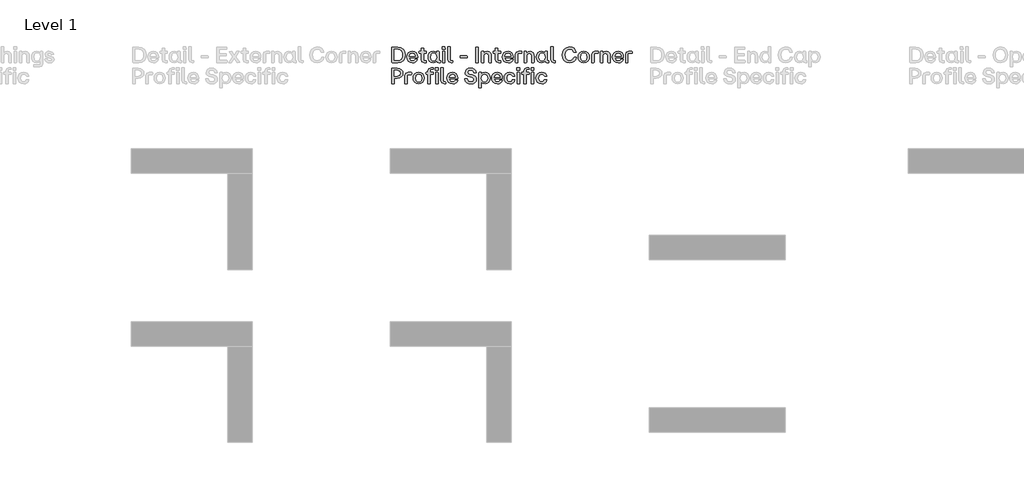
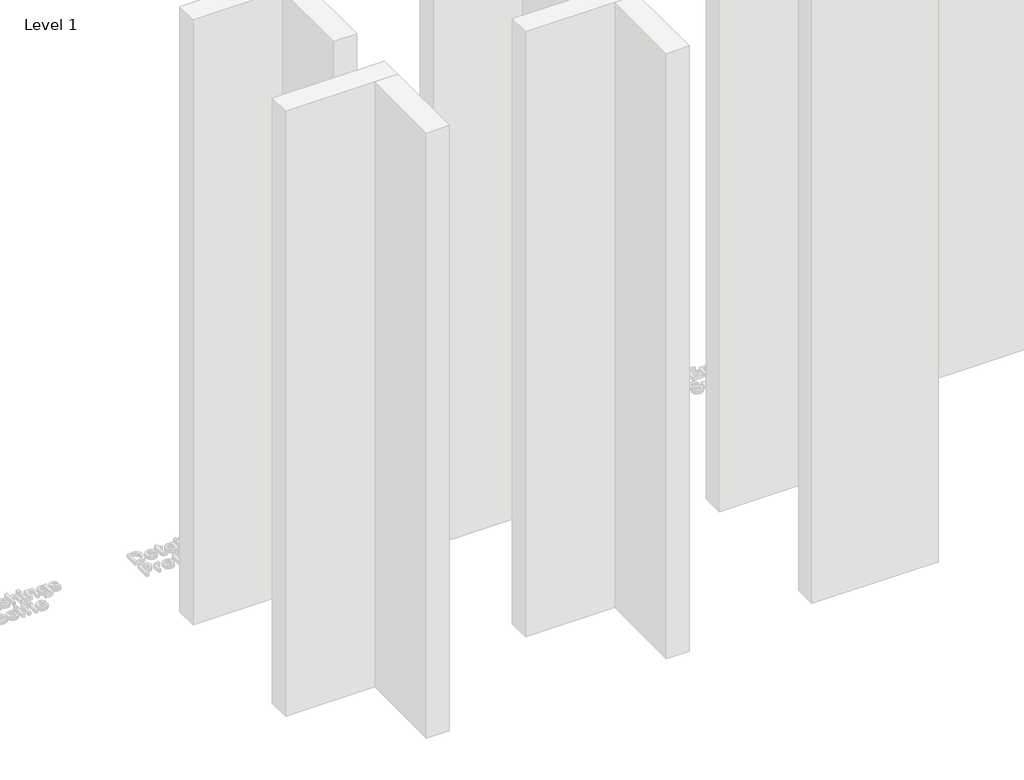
# One storey, part 58 of 64: 1 proxy.
"""IFC4 building model written with IfcOpenShell, lengths in millimetres."""

from ifc_helpers import new_model, si_unit, origin, origin_with_axes, place, context, project, spatial, polyline, outline, extrude, element, save

model = new_model("IFC4")

# Units and contexts
model_context = context("Model", 3, world=origin())
ifc_project = project(units=[si_unit("LENGTHUNIT", "METRE", prefix="MILLI")], contexts=[model_context])

# Site, building, storey
site = spatial("IfcSite", under=ifc_project)
building = spatial("IfcBuilding", under=site)
storey = spatial("IfcBuildingStorey", under=building, Name="Level 1", Elevation=0.0)

# Proxy
placement = place(None, origin())
element("IfcBuildingElementProxy", 1, Name="90mm", ObjectType="90mm", at=placement, inside=storey, context=model_context, shape_type="SweptSolid", body=[
    extrude(outline(polyline([(10610.2926176, 6000.0), (10608.9872124, 6001.2551973), (10608.9872124, 6088.6922388), (10642.5511873, 6089.997644), (10660.5475781, 6086.9945845), (10674.1193986, 6077.9854062), (10682.63905, 6063.6416394), (10685.4789338, 6044.6348148), (10682.648464, 6025.7974418), (10674.1570545, 6011.7109905), (10660.594648, 6002.9277476), (10642.5511873, 6000.0), (10610.2926176, 6000.0)]), holes=[polyline([(10623.7985402, 6012.6272845), (10641.6725492, 6012.6272845), (10653.8950326, 6014.688946), (10662.9481429, 6020.8739305), (10668.5494607, 6030.9374746), (10670.4165666, 6044.6348148), (10668.5431847, 6058.4890546), (10662.923039, 6068.8224661), (10653.8636527, 6075.2522141), (10641.6725492, 6077.3954634), (10623.7985402, 6077.3954634), (10623.7985402, 6012.6272845)])]), origin_with_axes(), (0.0, 0.0, 1.0), 20.0),
    extrude(outline(polyline([(10727.628458, 5999.2468816), (10714.0409476, 6001.5156507), (10703.5035666, 6008.3219579), (10696.7443293, 6018.9377888), (10694.4912502, 6032.6351289), (10696.7349153, 6046.4987827), (10703.4659107, 6057.2118914), (10713.9938777, 6064.0652685), (10727.628458, 6066.3497275), (10740.1584647, 6064.0966484), (10749.7324819, 6057.3374111), (10755.8044987, 6046.6870623), (10757.8285043, 6032.7606486), (10757.8285043, 6029.3214081), (10756.573307, 6027.990899), (10709.1268503, 6027.990899), (10714.6497183, 6015.3134066), (10727.628458, 6010.7946965), (10738.0465953, 6013.0917075), (10743.4439436, 6019.5308695), (10744.8246606, 6020.5852352), (10756.1967478, 6020.5852352), (10754.1633282, 6011.2685335), (10747.8120301, 6004.8074055), (10738.8248176, 6000.6370126), (10727.628458, 5999.2468816)]), holes=[polyline([(10709.2523701, 6038.4090363), (10743.8205028, 6038.4090363), (10739.0633051, 6050.3710663), (10727.628458, 6054.7266008), (10714.8631018, 6050.5844498), (10709.2523701, 6038.4090363)])]), origin_with_axes(), (0.0, 0.0, 1.0), 20.0),
    extrude(outline(polyline([(10796.6140998, 6000.0), (10782.731618, 6004.7697496), (10777.9618684, 6018.6522314), (10777.9618684, 6054.2245219), (10766.7906127, 6054.2245219), (10765.4852076, 6064.2661), (10766.7906127, 6065.5212973), (10777.9618684, 6065.5212973), (10777.9618684, 6083.54593), (10779.2170657, 6084.8513352), (10790.9657121, 6084.8513352), (10792.2209094, 6083.54593), (10792.2209094, 6065.5212973), (10808.0363949, 6065.5212973), (10809.3418001, 6064.2661), (10809.3418001, 6055.555031), (10792.2209094, 6054.2245219), (10792.2209094, 6011.2967754), (10808.0363949, 6011.2967754), (10809.3418001, 6010.0415781), (10809.3418001, 6001.2551973), (10808.0363949, 6000.0), (10796.6140998, 6000.0)])), origin_with_axes(), (0.0, 0.0, 1.0), 20.0),
    extrude(outline(polyline([(10847.2738615, 5999.2468816), (10835.3243835, 6001.5156507), (10826.0861316, 6008.3219579), (10820.1741525, 6018.9377888), (10818.2034928, 6032.6351289), (10820.1741525, 6046.4674028), (10826.0861316, 6057.1867875), (10835.3243835, 6064.0589925), (10847.2738615, 6066.3497275), (10859.1856835, 6063.4627738), (10868.160344, 6055.555031), (10868.7377347, 6064.2661), (10869.992932, 6065.5212973), (10881.6662665, 6065.5212973), (10882.9716717, 6064.2661), (10882.9716717, 6011.2967754), (10890.0760882, 6011.2967754), (10891.3312855, 6010.0415781), (10891.3312855, 6001.2551973), (10890.0760882, 6000.0), (10880.536589, 6000.0), (10872.1581473, 6002.3534949), (10869.3653333, 6009.4139795), (10859.7254183, 6002.1338354), (10847.2738615, 5999.2468816)]), holes=[polyline([(10832.7135732, 6032.6351289), (10837.6716024, 6016.6313638), (10843.5365116, 6012.2538633), (10851.2151809, 6010.7946965), (10858.7714684, 6012.2475873), (10864.470064, 6016.6062598), (10869.2398136, 6032.6351289), (10864.4324081, 6048.8271737), (10858.7243985, 6053.251744), (10851.2151809, 6054.7266008), (10843.5365116, 6053.251744), (10837.6716024, 6048.8271737), (10832.7135732, 6032.6351289)])]), origin_with_axes(), (0.0, 0.0, 1.0), 20.0),
    extrude(outline(polyline([(10903.6824266, 6000.0), (10902.3770214, 6001.2551973), (10902.3770214, 6064.2661), (10903.6824266, 6065.5212973), (10915.3557612, 6065.5212973), (10916.6109584, 6064.2661), (10916.6109584, 6001.2551973), (10915.3557612, 6000.0), (10903.6824266, 6000.0)])), origin_with_axes(), (0.0, 0.0, 1.0), 20.0),
    extrude(outline(polyline([(10901.3728636, 6078.1485818), (10901.3728636, 6092.0059596), (10902.6280609, 6093.3364687), (10916.4854387, 6093.3364687), (10917.8159478, 6078.1485818), (10916.4854387, 6076.8933845), (10902.6280609, 6076.8933845), (10901.3728636, 6078.1485818)])), origin_with_axes(), (0.0, 0.0, 1.0), 20.0),
    extrude(outline(polyline([(10951.5305464, 6000.0), (10937.6731686, 6004.7697496), (10932.903419, 6018.6522314), (10932.903419, 6091.2528413), (10945.8821587, 6092.5833504), (10947.137356, 6091.2528413), (10947.137356, 6011.2967754), (10959.1370418, 6011.2967754), (10960.3922391, 6010.0415781), (10960.3922391, 6001.2551973), (10959.1370418, 6000.0), (10951.5305464, 6000.0)])), origin_with_axes(), (0.0, 0.0, 1.0), 20.0),
    extrude(outline(polyline([(11005.1776775, 6027.112261), (11003.9224803, 6028.4427701), (11003.9224803, 6038.4090363), (11005.1776775, 6039.7395454), (11043.7875455, 6039.7395454), (11045.0427427, 6038.4090363), (11045.0427427, 6028.4427701), (11043.7875455, 6027.112261), (11005.1776775, 6027.112261)])), origin_with_axes(), (0.0, 0.0, 1.0), 20.0),
    extrude(outline(polyline([(11096.1292715, 6000.0), (11094.8740742, 6001.2551973), (11094.8740742, 6088.6922388), (11096.1292715, 6089.997644), (11108.3799968, 6089.997644), (11109.635194, 6088.6922388), (11109.635194, 6001.2551973), (11108.3799968, 6000.0), (11096.1292715, 6000.0)])), origin_with_axes(), (0.0, 0.0, 1.0), 20.0),
    extrude(outline(polyline([(11128.6137767, 6000.0), (11127.3083716, 6001.2551973), (11127.3083716, 6064.2661), (11128.6137767, 6065.5212973), (11139.6595127, 6065.5212973), (11140.9147099, 6064.2661), (11140.9147099, 6055.555031), (11150.2094457, 6063.6510534), (11162.1275437, 6066.3497275), (11172.0530161, 6064.4669316), (11179.3362982, 6058.8185439), (11183.8079385, 6049.5426361), (11185.2984853, 6036.7772799), (11185.2984853, 6001.2551973), (11183.9679762, 6000.0), (11172.2946416, 6000.0), (11170.9892364, 6001.2551973), (11170.9892364, 6036.7772799), (11167.4746841, 6050.057267), (11156.3661883, 6054.2245219), (11145.1572767, 6049.9945071), (11141.5423086, 6036.7772799), (11141.5423086, 6001.2551973), (11140.2871113, 6000.0), (11128.6137767, 6000.0)])), origin_with_axes(), (0.0, 0.0, 1.0), 20.0),
    extrude(outline(polyline([(11227.19697, 6000.0), (11213.3144882, 6004.7697496), (11208.5447386, 6018.6522314), (11208.5447386, 6054.2245219), (11197.373483, 6054.2245219), (11196.0680778, 6064.2661), (11197.373483, 6065.5212973), (11208.5447386, 6065.5212973), (11208.5447386, 6083.54593), (11209.7999359, 6084.8513352), (11221.5485823, 6084.8513352), (11222.8037796, 6083.54593), (11222.8037796, 6065.5212973), (11238.6192651, 6065.5212973), (11239.9246703, 6064.2661), (11239.9246703, 6055.555031), (11222.8037796, 6054.2245219), (11222.8037796, 6011.2967754), (11238.6192651, 6011.2967754), (11239.9246703, 6010.0415781), (11239.9246703, 6001.2551973), (11238.6192651, 6000.0), (11227.19697, 6000.0)])), origin_with_axes(), (0.0, 0.0, 1.0), 20.0),
    extrude(outline(polyline([(11281.9235708, 5999.2468816), (11268.3360604, 6001.5156507), (11257.7986794, 6008.3219579), (11251.0394421, 6018.9377888), (11248.786363, 6032.6351289), (11251.0300281, 6046.4987827), (11257.7610234, 6057.2118914), (11268.2889905, 6064.0652685), (11281.9235708, 6066.3497275), (11294.4535775, 6064.0966484), (11304.0275947, 6057.3374111), (11310.0996115, 6046.6870623), (11312.123617, 6032.7606486), (11312.123617, 6029.3214081), (11310.8684198, 6027.990899), (11263.4219631, 6027.990899), (11268.9448311, 6015.3134066), (11281.9235708, 6010.7946965), (11292.3417081, 6013.0917075), (11297.7390564, 6019.5308695), (11299.1197734, 6020.5852352), (11310.4918606, 6020.5852352), (11308.458441, 6011.2685335), (11302.1071429, 6004.8074055), (11293.1199304, 6000.6370126), (11281.9235708, 5999.2468816)]), holes=[polyline([(11263.5474828, 6038.4090363), (11298.1156156, 6038.4090363), (11293.3584179, 6050.3710663), (11281.9235708, 6054.7266008), (11269.1582146, 6050.5844498), (11263.5474828, 6038.4090363)])]), origin_with_axes(), (0.0, 0.0, 1.0), 20.0),
    extrude(outline(polyline([(11325.5542278, 6000.0), (11324.2990305, 6001.2551973), (11324.2990305, 6046.9443778), (11329.0687801, 6060.7892036), (11342.926158, 6065.5212973), (11361.2018302, 6065.5212973), (11362.4570274, 6064.2661), (11362.4570274, 6054.7266008), (11361.2018302, 6053.4714035), (11338.5329675, 6053.4714035), (11338.5329675, 6001.2551973), (11337.2777703, 6000.0), (11325.5542278, 6000.0)])), origin_with_axes(), (0.0, 0.0, 1.0), 20.0),
    extrude(outline(polyline([(11376.0382618, 6000.0), (11374.7328567, 6001.2551973), (11374.7328567, 6064.2661), (11376.0382618, 6065.5212973), (11387.0839978, 6065.5212973), (11388.339195, 6064.2661), (11388.339195, 6055.555031), (11397.6339308, 6063.6510534), (11409.5520288, 6066.3497275), (11419.4775012, 6064.4669316), (11426.7607834, 6058.8185439), (11431.2324236, 6049.5426361), (11432.7229704, 6036.7772799), (11432.7229704, 6001.2551973), (11431.3924613, 6000.0), (11419.7191267, 6000.0), (11418.4137215, 6001.2551973), (11418.4137215, 6036.7772799), (11414.8991692, 6050.057267), (11403.7906734, 6054.2245219), (11392.5817618, 6049.9945071), (11388.9667937, 6036.7772799), (11388.9667937, 6001.2551973), (11387.7115964, 6000.0), (11376.0382618, 6000.0)])), origin_with_axes(), (0.0, 0.0, 1.0), 20.0),
    extrude(outline(polyline([(11473.8683368, 5999.2468816), (11461.9188588, 6001.5156507), (11452.6806069, 6008.3219579), (11446.7686278, 6018.9377888), (11444.7979681, 6032.6351289), (11446.7686278, 6046.4674028), (11452.6806069, 6057.1867875), (11461.9188588, 6064.0589925), (11473.8683368, 6066.3497275), (11485.7801588, 6063.4627738), (11494.7548193, 6055.555031), (11495.33221, 6064.2661), (11496.5874073, 6065.5212973), (11508.2607419, 6065.5212973), (11509.566147, 6064.2661), (11509.566147, 6011.2967754), (11516.6705636, 6011.2967754), (11517.9257608, 6010.0415781), (11517.9257608, 6001.2551973), (11516.6705636, 6000.0), (11507.1310643, 6000.0), (11498.7526226, 6002.3534949), (11495.9598087, 6009.4139795), (11486.3198937, 6002.1338354), (11473.8683368, 5999.2468816)]), holes=[polyline([(11459.3080485, 6032.6351289), (11464.2660777, 6016.6313638), (11470.1309869, 6012.2538633), (11477.8096562, 6010.7946965), (11485.3659437, 6012.2475873), (11491.0645393, 6016.6062598), (11495.8342889, 6032.6351289), (11491.0268834, 6048.8271737), (11485.3188738, 6053.251744), (11477.8096562, 6054.7266008), (11470.1309869, 6053.251744), (11464.2660777, 6048.8271737), (11459.3080485, 6032.6351289)])]), origin_with_axes(), (0.0, 0.0, 1.0), 20.0),
    extrude(outline(polyline([(11547.5986242, 6000.0), (11533.7412464, 6004.7697496), (11528.9714968, 6018.6522314), (11528.9714968, 6091.2528413), (11541.9502365, 6092.5833504), (11543.2054338, 6091.2528413), (11543.2054338, 6011.2967754), (11555.2051196, 6011.2967754), (11556.4603169, 6010.0415781), (11556.4603169, 6001.2551973), (11555.2051196, 6000.0), (11547.5986242, 6000.0)])), origin_with_axes(), (0.0, 0.0, 1.0), 20.0),
    extrude(outline(polyline([(11638.5251142, 5999.2468816), (11620.5130334, 6002.3315289), (11606.6431036, 6011.5854708), (11597.7939629, 6026.1112411), (11594.8442493, 6045.011374), (11597.8190668, 6063.5945695), (11606.7435194, 6078.1736857), (11620.6385531, 6087.6064932), (11638.5251142, 6090.7507624), (11652.4734938, 6088.6734109), (11664.0432746, 6082.4413564), (11672.3620945, 6072.7575095), (11676.5575913, 6060.3247806), (11663.37802, 6058.8687518), (11661.9470951, 6059.9984293), (11654.0832843, 6073.6110437), (11638.5251142, 6078.1485818), (11626.6007401, 6075.9268826), (11617.5382159, 6069.2617852), (11611.8145163, 6058.755784), (11609.9066165, 6045.011374), (11611.8051024, 6031.0535804), (11617.50056, 6020.5601312), (11626.5536702, 6013.9891735), (11638.5251142, 6011.7988543), (11654.3908076, 6016.2736326), (11662.8257332, 6029.6979673), (11664.2566581, 6030.8778528), (11676.1810321, 6030.8778528), (11673.0085211, 6017.1208907), (11664.5453535, 6007.5311836), (11652.7872931, 6001.3179571), (11638.5251142, 5999.2468816)])), origin_with_axes(), (0.0, 0.0, 1.0), 20.0),
    extrude(outline(polyline([(11720.1631444, 5999.2468816), (11706.9365032, 6001.5533066), (11696.4775719, 6008.4725815), (11689.6712648, 6019.1260683), (11687.4024957, 6032.6351289), (11689.6775408, 6046.2320533), (11696.5026759, 6056.9985079), (11706.9678831, 6064.0119226), (11720.1631444, 6066.3497275), (11733.5153053, 6064.0119226), (11744.0495483, 6056.9985079), (11750.8935114, 6046.2320533), (11753.1748325, 6032.6351289), (11750.8935114, 6019.1260683), (11744.0495483, 6008.4725815), (11733.5153053, 6001.5533066), (11720.1631444, 5999.2468816)]), holes=[polyline([(11701.9125761, 6032.6351289), (11706.7701895, 6016.6062598), (11712.5472349, 6012.2475873), (11720.1631444, 6010.7946965), (11727.8606416, 6012.2538633), (11733.7318268, 6016.6313638), (11738.689856, 6032.6351289), (11733.7569308, 6048.8271737), (11727.8920215, 6053.251744), (11720.1631444, 6054.7266008), (11712.5472349, 6053.251744), (11706.7701895, 6048.8271737), (11701.9125761, 6032.6351289)])]), origin_with_axes(), (0.0, 0.0, 1.0), 20.0),
    extrude(outline(polyline([(11767.3836655, 6000.0), (11766.1284682, 6001.2551973), (11766.1284682, 6046.9443778), (11770.8982179, 6060.7892036), (11784.7555957, 6065.5212973), (11803.0312679, 6065.5212973), (11804.2864651, 6064.2661), (11804.2864651, 6054.7266008), (11803.0312679, 6053.4714035), (11780.3624052, 6053.4714035), (11780.3624052, 6001.2551973), (11779.107208, 6000.0), (11767.3836655, 6000.0)])), origin_with_axes(), (0.0, 0.0, 1.0), 20.0),
    extrude(outline(polyline([(11817.8676996, 6000.0), (11816.5622944, 6001.2551973), (11816.5622944, 6064.2661), (11817.8676996, 6065.5212973), (11828.9134355, 6065.5212973), (11830.1686328, 6064.2661), (11830.1686328, 6055.555031), (11839.4633685, 6063.6510534), (11851.3814666, 6066.3497275), (11861.306939, 6064.4669316), (11868.5902211, 6058.8185439), (11873.0618614, 6049.5426361), (11874.5524081, 6036.7772799), (11874.5524081, 6001.2551973), (11873.221899, 6000.0), (11861.5485644, 6000.0), (11860.2431593, 6001.2551973), (11860.2431593, 6036.7772799), (11856.7286069, 6050.057267), (11845.6201111, 6054.2245219), (11834.4111995, 6049.9945071), (11830.7962314, 6036.7772799), (11830.7962314, 6001.2551973), (11829.5410341, 6000.0), (11817.8676996, 6000.0)])), origin_with_axes(), (0.0, 0.0, 1.0), 20.0),
    extrude(outline(polyline([(11919.7646136, 5999.2468816), (11906.1771032, 6001.5156507), (11895.6397222, 6008.3219579), (11888.8804849, 6018.9377888), (11886.6274058, 6032.6351289), (11888.8710709, 6046.4987827), (11895.6020663, 6057.2118914), (11906.1300333, 6064.0652685), (11919.7646136, 6066.3497275), (11932.2946204, 6064.0966484), (11941.8686375, 6057.3374111), (11947.9406543, 6046.6870623), (11949.9646599, 6032.7606486), (11949.9646599, 6029.3214081), (11948.7094626, 6027.990899), (11901.2630059, 6027.990899), (11906.7858739, 6015.3134066), (11919.7646136, 6010.7946965), (11930.182751, 6013.0917075), (11935.5800992, 6019.5308695), (11936.9608162, 6020.5852352), (11948.3329034, 6020.5852352), (11946.2994838, 6011.2685335), (11939.9481857, 6004.8074055), (11930.9609733, 6000.6370126), (11919.7646136, 5999.2468816)]), holes=[polyline([(11901.3885257, 6038.4090363), (11935.9566584, 6038.4090363), (11931.1994607, 6050.3710663), (11919.7646136, 6054.7266008), (11906.9992574, 6050.5844498), (11901.3885257, 6038.4090363)])]), origin_with_axes(), (0.0, 0.0, 1.0), 20.0),
    extrude(outline(polyline([(11963.3952706, 6000.0), (11962.1400733, 6001.2551973), (11962.1400733, 6046.9443778), (11966.909823, 6060.7892036), (11980.7672008, 6065.5212973), (11999.042873, 6065.5212973), (12000.2980702, 6064.2661), (12000.2980702, 6054.7266008), (11999.042873, 6053.4714035), (11976.3740103, 6053.4714035), (11976.3740103, 6001.2551973), (11975.1188131, 6000.0), (11963.3952706, 6000.0)])), origin_with_axes(), (0.0, 0.0, 1.0), 20.0),
    extrude(outline(polyline([(10610.2926176, 5877.86695), (10608.9872124, 5879.1221472), (10608.9872124, 5966.5591888), (10640.1161046, 5967.864594), (10654.0174144, 5965.9661081), (10664.3414119, 5960.2706505), (10670.7429179, 5951.0763305), (10672.8767533, 5938.6812575), (10670.7429179, 5926.2861845), (10664.3414119, 5917.0918646), (10654.0174144, 5911.396407), (10640.1161046, 5909.4979211), (10623.7985402, 5909.4979211), (10623.7985402, 5879.1221472), (10622.4680311, 5877.86695), (10610.2926176, 5877.86695)]), holes=[polyline([(10623.7985402, 5922.1252056), (10640.1161046, 5922.1252056), (10653.5969233, 5926.2045967), (10657.9901137, 5938.6938095), (10653.5969233, 5951.1830223), (10640.1161046, 5955.2624134), (10623.7985402, 5955.2624134), (10623.7985402, 5922.1252056)])]), origin_with_axes(), (0.0, 0.0, 1.0), 20.0),
    extrude(outline(polyline([(10686.1065325, 5877.86695), (10684.8513352, 5879.1221472), (10684.8513352, 5924.8113277), (10689.6210848, 5938.6561536), (10703.4784626, 5943.3882473), (10721.7541348, 5943.3882473), (10723.0093321, 5942.13305), (10723.0093321, 5932.5935508), (10721.7541348, 5931.3383535), (10699.0852722, 5931.3383535), (10699.0852722, 5879.1221472), (10697.8300749, 5877.86695), (10686.1065325, 5877.86695)])), origin_with_axes(), (0.0, 0.0, 1.0), 20.0),
    extrude(outline(polyline([(10764.2049064, 5877.1138316), (10750.9782652, 5879.4202566), (10740.519334, 5886.3395315), (10733.7130268, 5896.9930183), (10731.4442577, 5910.5020789), (10733.7193028, 5924.0990033), (10740.5444379, 5934.8654578), (10751.0096451, 5941.8788726), (10764.2049064, 5944.2166775), (10777.5570673, 5941.8788726), (10788.0913103, 5934.8654578), (10794.9352734, 5924.0990033), (10797.2165945, 5910.5020789), (10794.9352734, 5896.9930183), (10788.0913103, 5886.3395315), (10777.5570673, 5879.4202566), (10764.2049064, 5877.1138316)]), holes=[polyline([(10745.9543381, 5910.5020789), (10750.8119515, 5894.4732098), (10756.588997, 5890.1145373), (10764.2049064, 5888.6616465), (10771.9024036, 5890.1208133), (10777.7735888, 5894.4983138), (10782.731618, 5910.5020789), (10777.7986928, 5926.6941236), (10771.9337835, 5931.118694), (10764.2049064, 5932.5935508), (10756.588997, 5931.118694), (10750.8119515, 5926.6941236), (10745.9543381, 5910.5020789)])]), origin_with_axes(), (0.0, 0.0, 1.0), 20.0),
    extrude(outline(polyline([(10861.3069669, 5956.0155318), (10861.3069669, 5969.8729096), (10862.5621642, 5971.2034187), (10876.4948538, 5971.2034187), (10877.7500511, 5969.8729096), (10877.7500511, 5956.0155318), (10876.4948538, 5954.7603345), (10862.5621642, 5954.7603345), (10861.3069669, 5956.0155318)])), origin_with_axes(), (0.0, 0.0, 1.0), 20.0),
    extrude(outline(polyline([(10862.3111247, 5879.1221472), (10862.3111247, 5942.13305), (10863.6416338, 5943.3882473), (10875.3149684, 5943.3882473), (10876.6203735, 5942.13305), (10876.6203735, 5879.1221472), (10875.3149684, 5877.86695), (10863.6416338, 5877.86695), (10862.3111247, 5879.1221472)])), origin_with_axes(), (0.0, 0.0, 1.0), 20.0),
    extrude(outline(polyline([(10819.3833782, 5877.86695), (10818.1281809, 5879.1221472), (10818.1281809, 5932.0914719), (10806.9569253, 5932.0914719), (10805.6515201, 5942.13305), (10806.9569253, 5943.3882473), (10818.1281809, 5943.3882473), (10818.1281809, 5951.798069), (10822.8979305, 5965.6805507), (10836.7804123, 5970.4503003), (10848.2027074, 5970.4503003), (10849.5081126, 5960.4087222), (10832.3872219, 5959.0782131), (10832.3872219, 5943.3882473), (10848.2027074, 5943.3882473), (10849.5081126, 5942.13305), (10849.5081126, 5933.421981), (10832.3872219, 5932.0914719), (10832.3872219, 5879.1221472), (10831.1320246, 5877.86695), (10819.3833782, 5877.86695)])), origin_with_axes(), (0.0, 0.0, 1.0), 20.0),
    extrude(outline(polyline([(10911.3642339, 5877.86695), (10897.506856, 5882.6366996), (10892.7371064, 5896.5191814), (10892.7371064, 5969.1197912), (10905.7158462, 5970.4503003), (10906.9710434, 5969.1197912), (10906.9710434, 5889.1637254), (10918.9707293, 5889.1637254), (10920.2259266, 5887.9085281), (10920.2259266, 5879.1221472), (10918.9707293, 5877.86695), (10911.3642339, 5877.86695)])), origin_with_axes(), (0.0, 0.0, 1.0), 20.0),
    extrude(outline(polyline([(10960.5930707, 5877.1138316), (10947.0055602, 5879.3826007), (10936.4681792, 5886.1889079), (10929.7089419, 5896.8047387), (10927.4558628, 5910.5020789), (10929.6995279, 5924.3657327), (10936.4305233, 5935.0788414), (10946.9584903, 5941.9322185), (10960.5930707, 5944.2166775), (10973.1230774, 5941.9635984), (10982.6970945, 5935.2043611), (10988.7691113, 5924.5540123), (10990.7931169, 5910.6275986), (10990.7931169, 5907.1883581), (10989.5379196, 5905.857849), (10942.0914629, 5905.857849), (10947.6143309, 5893.1803566), (10960.5930707, 5888.6616465), (10971.011208, 5890.9586575), (10976.4085562, 5897.3978194), (10977.7892732, 5898.4521852), (10989.1613604, 5898.4521852), (10987.1279409, 5889.1354834), (10980.7766427, 5882.6743555), (10971.7894303, 5878.5039626), (10960.5930707, 5877.1138316)]), holes=[polyline([(10942.2169827, 5916.2759863), (10976.7851154, 5916.2759863), (10972.0279177, 5928.2380163), (10960.5930707, 5932.5935508), (10947.8277145, 5928.4513998), (10942.2169827, 5916.2759863)])]), origin_with_axes(), (0.0, 0.0, 1.0), 20.0),
    extrude(outline(polyline([(11066.8831752, 5877.1138316), (11053.1136611, 5878.9652476), (11042.4319324, 5884.5194955), (11035.1706162, 5893.4941559), (11031.6623399, 5905.6068096), (11044.917223, 5907.0628384), (11046.2226282, 5905.857849), (11052.4107507, 5893.3058764), (11066.8831752, 5889.4147648), (11079.3974919, 5892.992077), (11083.8785461, 5902.9206874), (11080.7782089, 5911.1673335), (11070.3977275, 5915.2718285), (11058.5235614, 5917.355456), (11047.5186193, 5920.6095549), (11039.6579465, 5925.9284533), (11034.9415427, 5933.3121512), (11033.3694082, 5942.7606486), (11035.3839998, 5953.602415), (11041.4277746, 5961.7768872), (11051.0802416, 5966.9075061), (11063.9209096, 5968.6177123), (11076.6548859, 5966.8855401), (11086.5897722, 5961.6890234), (11093.3803895, 5953.3356856), (11096.6815583, 5942.13305), (11083.501987, 5940.7021251), (11082.0710621, 5942.13305), (11076.2594987, 5952.8398827), (11063.9209096, 5956.2665712), (11052.1597112, 5953.1285781), (11048.1054241, 5943.965638), (11051.7203922, 5935.267121), (11063.0422715, 5930.7107549), (11074.8411258, 5928.6522314), (11085.6609263, 5925.4828583), (11093.0163822, 5920.3930334), (11097.2338451, 5913.0626813), (11098.639666, 5903.1717269), (11096.5277966, 5892.2577866), (11090.1921884, 5884.0174166), (11080.1411963, 5878.8397279), (11066.8831752, 5877.1138316)])), origin_with_axes(), (0.0, 0.0, 1.0), 20.0),
    extrude(outline(polyline([(11114.1539042, 5853.4659151), (11112.848499, 5854.7211124), (11112.848499, 5942.13305), (11114.1539042, 5943.3882473), (11125.1996401, 5943.3882473), (11126.4548374, 5942.13305), (11126.4548374, 5933.5475007), (11136.0947524, 5941.3297238), (11148.5463093, 5944.2166775), (11160.4957873, 5941.9416324), (11169.7340392, 5935.1164973), (11175.6460183, 5924.4755625), (11177.616678, 5910.7531184), (11175.6460183, 5896.9459484), (11169.7340392, 5886.2516677), (11160.4957873, 5879.3982906), (11148.5463093, 5877.1138316), (11136.6344872, 5880.0007853), (11127.6598268, 5887.9085281), (11127.082436, 5854.7211124), (11125.8272388, 5853.4659151), (11114.1539042, 5853.4659151)]), holes=[polyline([(11126.5803571, 5910.7531184), (11131.3877627, 5894.5610736), (11137.0957722, 5890.1365033), (11144.6049899, 5888.6616465), (11152.2836592, 5890.1365033), (11158.1485684, 5894.5610736), (11163.1065976, 5910.7531184), (11158.1485684, 5926.7568835), (11152.2836592, 5931.134384), (11144.6049899, 5932.5935508), (11137.0487023, 5931.143798), (11131.3501068, 5926.7945394), (11126.5803571, 5910.7531184)])]), origin_with_axes(), (0.0, 0.0, 1.0), 20.0),
    extrude(outline(polyline([(11219.2641233, 5877.1138316), (11205.6766129, 5879.3826007), (11195.1392318, 5886.1889079), (11188.3799945, 5896.8047387), (11186.1269155, 5910.5020789), (11188.3705806, 5924.3657327), (11195.1015759, 5935.0788414), (11205.629543, 5941.9322185), (11219.2641233, 5944.2166775), (11231.79413, 5941.9635984), (11241.3681471, 5935.2043611), (11247.4401639, 5924.5540123), (11249.4641695, 5910.6275986), (11249.4641695, 5907.1883581), (11248.2089722, 5905.857849), (11200.7625156, 5905.857849), (11206.2853836, 5893.1803566), (11219.2641233, 5888.6616465), (11229.6822606, 5890.9586575), (11235.0796088, 5897.3978194), (11236.4603258, 5898.4521852), (11247.8324131, 5898.4521852), (11245.7989935, 5889.1354834), (11239.4476953, 5882.6743555), (11230.4604829, 5878.5039626), (11219.2641233, 5877.1138316)]), holes=[polyline([(11200.8880353, 5916.2759863), (11235.456168, 5916.2759863), (11230.6989704, 5928.2380163), (11219.2641233, 5932.5935508), (11206.4987671, 5928.4513998), (11200.8880353, 5916.2759863)])]), origin_with_axes(), (0.0, 0.0, 1.0), 20.0),
    extrude(outline(polyline([(11291.4379661, 5877.1138316), (11277.9445955, 5879.3826007), (11267.4385944, 5886.1889079), (11260.6793571, 5896.8047387), (11258.426278, 5910.5020789), (11260.710737, 5924.0990033), (11267.5641141, 5934.8654578), (11278.1014951, 5941.8788726), (11291.4379661, 5944.2166775), (11302.4209422, 5942.6696468), (11311.3704987, 5938.028555), (11317.6841409, 5930.8456886), (11320.7593742, 5921.6733346), (11308.1320897, 5920.2926176), (11301.7054797, 5929.8321168), (11291.4379661, 5932.5935508), (11283.680847, 5931.118694), (11277.8316277, 5926.6941236), (11272.9363584, 5910.5020789), (11277.8567317, 5894.4355539), (11283.7122269, 5890.1051233), (11291.4379661, 5888.6616465), (11302.019279, 5891.2975607), (11307.3789714, 5899.8329021), (11308.7596884, 5901.0378915), (11320.1317756, 5901.0378915), (11318.12346, 5890.5287524), (11311.7470579, 5883.3019541), (11302.7033616, 5878.6608623), (11291.4379661, 5877.1138316)])), origin_with_axes(), (0.0, 0.0, 1.0), 20.0),
    extrude(outline(polyline([(11335.8719493, 5877.86695), (11334.5665442, 5879.1221472), (11334.5665442, 5942.13305), (11335.8719493, 5943.3882473), (11347.5452839, 5943.3882473), (11348.8004812, 5942.13305), (11348.8004812, 5879.1221472), (11347.5452839, 5877.86695), (11335.8719493, 5877.86695)])), origin_with_axes(), (0.0, 0.0, 1.0), 20.0),
    extrude(outline(polyline([(11333.5623863, 5956.0155318), (11333.5623863, 5969.8729096), (11334.8175836, 5971.2034187), (11348.6749614, 5971.2034187), (11350.0054705, 5956.0155318), (11348.6749614, 5954.7603345), (11334.8175836, 5954.7603345), (11333.5623863, 5956.0155318)])), origin_with_axes(), (0.0, 0.0, 1.0), 20.0),
    extrude(outline(polyline([(11373.678491, 5877.86695), (11372.4232937, 5879.1221472), (11372.4232937, 5932.0914719), (11361.252038, 5932.0914719), (11359.9466329, 5942.13305), (11361.252038, 5943.3882473), (11372.4232937, 5943.3882473), (11372.4232937, 5951.798069), (11377.1930433, 5965.6805507), (11391.0755251, 5970.4503003), (11402.4978202, 5970.4503003), (11403.8032254, 5960.4087222), (11386.6823347, 5959.0782131), (11386.6823347, 5943.3882473), (11402.4978202, 5943.3882473), (11403.8032254, 5942.13305), (11403.8032254, 5933.421981), (11386.6823347, 5932.0914719), (11386.6823347, 5879.1221472), (11385.4271374, 5877.86695), (11373.678491, 5877.86695)])), origin_with_axes(), (0.0, 0.0, 1.0), 20.0),
    extrude(outline(polyline([(11415.6020797, 5956.0155318), (11415.6020797, 5969.8729096), (11416.8572769, 5971.2034187), (11430.7899666, 5971.2034187), (11432.0451639, 5969.8729096), (11432.0451639, 5956.0155318), (11430.7899666, 5954.7603345), (11416.8572769, 5954.7603345), (11415.6020797, 5956.0155318)])), origin_with_axes(), (0.0, 0.0, 1.0), 20.0),
    extrude(outline(polyline([(11416.6062375, 5879.1221472), (11416.6062375, 5942.13305), (11417.9367466, 5943.3882473), (11429.6100812, 5943.3882473), (11430.9154863, 5942.13305), (11430.9154863, 5879.1221472), (11429.6100812, 5877.86695), (11417.9367466, 5877.86695), (11416.6062375, 5879.1221472)])), origin_with_axes(), (0.0, 0.0, 1.0), 20.0),
    extrude(outline(polyline([(11476.2030037, 5877.1138316), (11462.7096331, 5879.3826007), (11452.203632, 5886.1889079), (11445.4443947, 5896.8047387), (11443.1913156, 5910.5020789), (11445.4757746, 5924.0990033), (11452.3291517, 5934.8654578), (11462.8665327, 5941.8788726), (11476.2030037, 5944.2166775), (11487.1859798, 5942.6696468), (11496.1355363, 5938.028555), (11502.4491785, 5930.8456886), (11505.5244118, 5921.6733346), (11492.8971273, 5920.2926176), (11486.4705173, 5929.8321168), (11476.2030037, 5932.5935508), (11468.4458846, 5931.118694), (11462.5966653, 5926.6941236), (11457.701396, 5910.5020789), (11462.6217693, 5894.4355539), (11468.4772645, 5890.1051233), (11476.2030037, 5888.6616465), (11486.7843166, 5891.2975607), (11492.144009, 5899.8329021), (11493.524726, 5901.0378915), (11504.8968132, 5901.0378915), (11502.8884976, 5890.5287524), (11496.5120955, 5883.3019541), (11487.4683992, 5878.6608623), (11476.2030037, 5877.1138316)])), origin_with_axes(), (0.0, 0.0, 1.0), 20.0),
])

save(model, "model.ifc")
